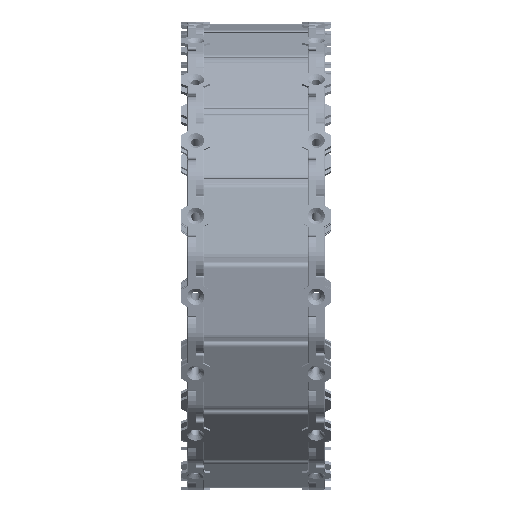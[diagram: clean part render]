
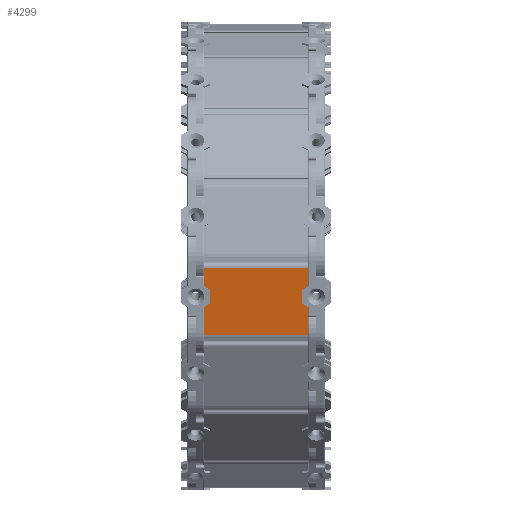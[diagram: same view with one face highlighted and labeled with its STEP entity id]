
A CAD part, front view. The second image highlights one B-rep face of the part: STEP entity #4299.
In plain terms, the highlighted planar face has unit normal (0, -0.987, -0.163) as drawn and (0, 0, 1) by its records, which use the part's own axes.
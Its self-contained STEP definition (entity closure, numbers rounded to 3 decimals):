
#4124=CARTESIAN_POINT('',(-23.997,-23.731,8.));
#4125=VERTEX_POINT('',#4124);
#4133=CARTESIAN_POINT('',(-23.997,8.807,8.));
#4134=VERTEX_POINT('',#4133);
#4135=CARTESIAN_POINT('',(-23.997,8.807,8.));
#4136=DIRECTION('',(0.0,-1.0,0.0));
#4137=VECTOR('',#4136,32.537);
#4138=LINE('',#4135,#4137);
#4139=EDGE_CURVE('',#4134,#4125,#4138,.T.);
#4166=CARTESIAN_POINT('',(26.003,8.807,8.));
#4167=VERTEX_POINT('',#4166);
#4176=CARTESIAN_POINT('',(26.003,-23.731,8.));
#4177=VERTEX_POINT('',#4176);
#4178=CARTESIAN_POINT('',(26.003,-23.731,8.));
#4179=DIRECTION('',(0.0,1.0,0.0));
#4180=VECTOR('',#4179,32.537);
#4181=LINE('',#4178,#4180);
#4182=EDGE_CURVE('',#4177,#4167,#4181,.T.);
#4278=CARTESIAN_POINT('',(-36.9,-11.95,8.));
#4279=DIRECTION('',(0.0,0.0,1.0));
#4280=DIRECTION('',(-1.0,0.0,0.0));
#4281=AXIS2_PLACEMENT_3D('',#4278,#4279,#4280);
#4282=PLANE('',#4281);
#4283=ORIENTED_EDGE('',*,*,#4139,.T.);
#4284=CARTESIAN_POINT('',(26.003,-23.731,8.));
#4285=DIRECTION('',(-1.0,0.0,0.0));
#4286=VECTOR('',#4285,50.);
#4287=LINE('',#4284,#4286);
#4288=EDGE_CURVE('',#4177,#4125,#4287,.T.);
#4289=ORIENTED_EDGE('',*,*,#4288,.F.);
#4290=ORIENTED_EDGE('',*,*,#4182,.T.);
#4291=CARTESIAN_POINT('',(26.003,8.807,8.));
#4292=DIRECTION('',(-1.0,0.0,0.0));
#4293=VECTOR('',#4292,50.0);
#4294=LINE('',#4291,#4293);
#4295=EDGE_CURVE('',#4167,#4134,#4294,.T.);
#4296=ORIENTED_EDGE('',*,*,#4295,.T.);
#4297=EDGE_LOOP('',(#4283,#4289,#4290,#4296));
#4298=FACE_OUTER_BOUND('',#4297,.T.);
#4299=ADVANCED_FACE('',(#4298),#4282,.T.);
